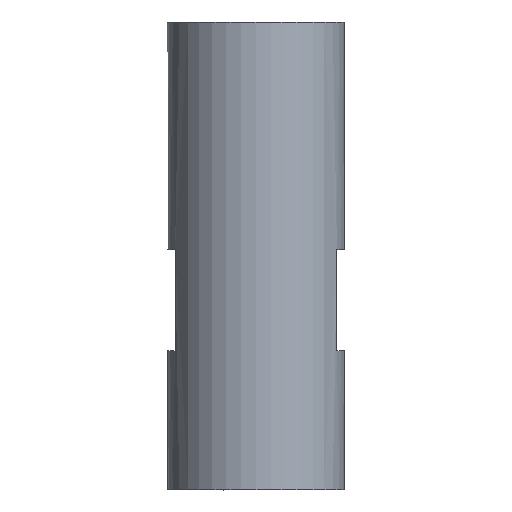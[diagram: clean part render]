
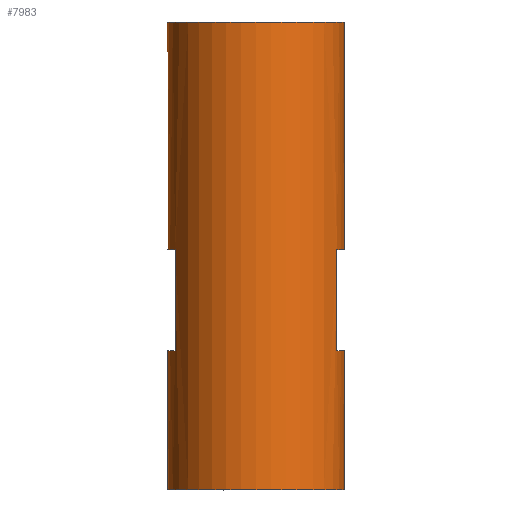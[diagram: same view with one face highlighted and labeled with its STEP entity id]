
A CAD part, front view. The second image highlights one B-rep face of the part: STEP entity #7983.
In plain terms, the highlighted cylindrical face has radius 35 mm (diameter 70 mm), a full revolution.
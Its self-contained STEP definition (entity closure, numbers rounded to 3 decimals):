
#6177=CYLINDRICAL_SURFACE('',#25033,35.);
#6942=B_SPLINE_CURVE_WITH_KNOTS('',3,(#45777,#45778,#45779,#45780,#45781,
#45782,#45783,#45784,#45785,#45786),.UNSPECIFIED.,.F.,.F.,(4,2,2,2,4),(0.,
0.25,0.5,0.75,1.),.UNSPECIFIED.);
#6994=B_SPLINE_CURVE_WITH_KNOTS('',3,(#48666,#48667,#48668,#48669,#48670,
#48671,#48672,#48673,#48674,#48675),.UNSPECIFIED.,.F.,.F.,(4,2,2,2,4),(0.,
0.25,0.5,0.75,1.),.UNSPECIFIED.);
#7983=ADVANCED_FACE('',(#9032,#9033,#9034,#9035,#9036),#6177,.T.);
#9032=FACE_BOUND('',#10267,.T.);
#9033=FACE_BOUND('',#10268,.T.);
#9034=FACE_BOUND('',#10269,.T.);
#9035=FACE_BOUND('',#10270,.T.);
#9036=FACE_BOUND('',#10271,.T.);
#10267=EDGE_LOOP('',(#15671));
#10268=EDGE_LOOP('',(#15672));
#10269=EDGE_LOOP('',(#15673,#15674,#15675,#15676));
#10270=EDGE_LOOP('',(#15677,#15678,#15679,#15680));
#10271=EDGE_LOOP('',(#15681,#15682,#15683,#15684));
#10993=CIRCLE('',#25026,35.);
#10994=CIRCLE('',#25028,35.);
#10995=CIRCLE('',#25029,35.);
#10996=CIRCLE('',#25030,35.);
#10997=CIRCLE('',#25031,35.);
#10998=CIRCLE('',#25032,35.);
#15671=ORIENTED_EDGE('',*,*,#20493,.T.);
#15672=ORIENTED_EDGE('',*,*,#20494,.T.);
#15673=ORIENTED_EDGE('',*,*,#20495,.F.);
#15674=ORIENTED_EDGE('',*,*,#20496,.T.);
#15675=ORIENTED_EDGE('',*,*,#20497,.F.);
#15676=ORIENTED_EDGE('',*,*,#20498,.T.);
#15677=ORIENTED_EDGE('',*,*,#20499,.T.);
#15678=ORIENTED_EDGE('',*,*,#20500,.F.);
#15679=ORIENTED_EDGE('',*,*,#20501,.T.);
#15680=ORIENTED_EDGE('',*,*,#20502,.F.);
#15681=ORIENTED_EDGE('',*,*,#20430,.F.);
#15682=ORIENTED_EDGE('',*,*,#20503,.F.);
#15683=ORIENTED_EDGE('',*,*,#20504,.F.);
#15684=ORIENTED_EDGE('',*,*,#20505,.F.);
#17889=VERTEX_POINT('',#45787);
#17890=VERTEX_POINT('',#45788);
#17932=VERTEX_POINT('',#48644);
#17933=VERTEX_POINT('',#48647);
#17934=VERTEX_POINT('',#48649);
#17935=VERTEX_POINT('',#48650);
#17936=VERTEX_POINT('',#48652);
#17937=VERTEX_POINT('',#48654);
#17938=VERTEX_POINT('',#48657);
#17939=VERTEX_POINT('',#48658);
#17940=VERTEX_POINT('',#48660);
#17941=VERTEX_POINT('',#48662);
#17942=VERTEX_POINT('',#48665);
#17943=VERTEX_POINT('',#48676);
#20430=EDGE_CURVE('',#17889,#17890,#6942,.T.);
#20493=EDGE_CURVE('',#17932,#17932,#10993,.T.);
#20494=EDGE_CURVE('',#17933,#17933,#10994,.T.);
#20495=EDGE_CURVE('',#17934,#17935,#21821,.T.);
#20496=EDGE_CURVE('',#17934,#17936,#10995,.T.);
#20497=EDGE_CURVE('',#17937,#17936,#21822,.T.);
#20498=EDGE_CURVE('',#17937,#17935,#10996,.T.);
#20499=EDGE_CURVE('',#17938,#17939,#10997,.T.);
#20500=EDGE_CURVE('',#17940,#17939,#21823,.T.);
#20501=EDGE_CURVE('',#17940,#17941,#10998,.T.);
#20502=EDGE_CURVE('',#17938,#17941,#21824,.T.);
#20503=EDGE_CURVE('',#17942,#17889,#21825,.T.);
#20504=EDGE_CURVE('',#17943,#17942,#6994,.T.);
#20505=EDGE_CURVE('',#17890,#17943,#21826,.T.);
#21821=LINE('',#48648,#23294);
#21822=LINE('',#48653,#23295);
#21823=LINE('',#48659,#23296);
#21824=LINE('',#48663,#23297);
#21825=LINE('',#48664,#23298);
#21826=LINE('',#48677,#23299);
#23294=VECTOR('',#29164,1.);
#23295=VECTOR('',#29167,1.);
#23296=VECTOR('',#29172,1.);
#23297=VECTOR('',#29175,1.);
#23298=VECTOR('',#29176,1.);
#23299=VECTOR('',#29177,1.);
#25026=AXIS2_PLACEMENT_3D('',#48643,#29158,#29159);
#25028=AXIS2_PLACEMENT_3D('',#48646,#29162,#29163);
#25029=AXIS2_PLACEMENT_3D('',#48651,#29165,#29166);
#25030=AXIS2_PLACEMENT_3D('',#48655,#29168,#29169);
#25031=AXIS2_PLACEMENT_3D('',#48656,#29170,#29171);
#25032=AXIS2_PLACEMENT_3D('',#48661,#29173,#29174);
#25033=AXIS2_PLACEMENT_3D('',#48678,#29178,#29179);
#29158=DIRECTION('',(0.,0.,1.));
#29159=DIRECTION('',(1.,0.,0.));
#29162=DIRECTION('',(0.,0.,-1.));
#29163=DIRECTION('',(1.,0.,0.));
#29164=DIRECTION('',(0.,0.,-1.));
#29165=DIRECTION('',(0.,0.,1.));
#29166=DIRECTION('',(-1.,0.,0.));
#29167=DIRECTION('',(0.,0.,1.));
#29168=DIRECTION('',(0.,0.,-1.));
#29169=DIRECTION('',(-0.914,-0.405,0.));
#29170=DIRECTION('',(0.,0.,1.));
#29171=DIRECTION('',(0.914,-0.405,0.));
#29172=DIRECTION('',(0.,0.,1.));
#29173=DIRECTION('',(0.,0.,-1.));
#29174=DIRECTION('',(1.,0.,0.));
#29175=DIRECTION('',(0.,0.,-1.));
#29176=DIRECTION('',(0.,0.,-1.));
#29177=DIRECTION('',(0.,0.,1.));
#29178=DIRECTION('',(0.,0.,-1.));
#29179=DIRECTION('',(-1.,0.,0.));
#45777=CARTESIAN_POINT('',(14.162,15.5,132.741));
#45778=CARTESIAN_POINT('',(12.555,16.212,130.52));
#45779=CARTESIAN_POINT('',(10.46,16.988,128.718));
#45780=CARTESIAN_POINT('',(5.607,18.135,126.204));
#45781=CARTESIAN_POINT('',(2.816,18.498,125.505));
#45782=CARTESIAN_POINT('',(-2.787,18.502,125.495));
#45783=CARTESIAN_POINT('',(-5.606,18.142,126.191));
#45784=CARTESIAN_POINT('',(-10.485,16.991,128.711));
#45785=CARTESIAN_POINT('',(-12.585,16.212,130.519));
#45786=CARTESIAN_POINT('',(-14.193,15.5,132.741));
#45787=CARTESIAN_POINT('',(14.162,15.5,132.741));
#45788=CARTESIAN_POINT('',(-14.193,15.5,132.741));
#48643=CARTESIAN_POINT('',(-0.016,-16.5,68.));
#48644=CARTESIAN_POINT('',(34.984,-16.5,68.));
#48646=CARTESIAN_POINT('',(-0.016,-16.5,253.));
#48647=CARTESIAN_POINT('',(34.984,-16.5,253.));
#48648=CARTESIAN_POINT('',(-32.016,-2.323,163.));
#48649=CARTESIAN_POINT('',(-32.016,-2.323,163.));
#48650=CARTESIAN_POINT('',(-32.016,-2.323,123.));
#48651=CARTESIAN_POINT('',(-0.016,-16.5,163.));
#48652=CARTESIAN_POINT('',(-32.016,-30.677,163.));
#48653=CARTESIAN_POINT('',(-32.016,-30.677,123.));
#48654=CARTESIAN_POINT('',(-32.016,-30.677,123.));
#48655=CARTESIAN_POINT('',(-0.016,-16.5,123.));
#48656=CARTESIAN_POINT('',(-0.016,-16.5,163.));
#48657=CARTESIAN_POINT('',(31.984,-30.677,163.));
#48658=CARTESIAN_POINT('',(31.984,-2.323,163.));
#48659=CARTESIAN_POINT('',(31.984,-2.323,123.));
#48660=CARTESIAN_POINT('',(31.984,-2.323,123.));
#48661=CARTESIAN_POINT('',(-0.016,-16.5,123.));
#48662=CARTESIAN_POINT('',(31.984,-30.677,123.));
#48663=CARTESIAN_POINT('',(31.984,-30.677,163.));
#48664=CARTESIAN_POINT('',(14.162,15.5,153.259));
#48665=CARTESIAN_POINT('',(14.162,15.5,153.259));
#48666=CARTESIAN_POINT('',(-14.193,15.5,153.259));
#48667=CARTESIAN_POINT('',(-12.586,16.212,155.48));
#48668=CARTESIAN_POINT('',(-10.491,16.988,157.282));
#48669=CARTESIAN_POINT('',(-5.639,18.135,159.796));
#48670=CARTESIAN_POINT('',(-2.848,18.498,160.495));
#48671=CARTESIAN_POINT('',(2.756,18.502,160.505));
#48672=CARTESIAN_POINT('',(5.574,18.142,159.809));
#48673=CARTESIAN_POINT('',(10.454,16.991,157.289));
#48674=CARTESIAN_POINT('',(12.554,16.212,155.481));
#48675=CARTESIAN_POINT('',(14.162,15.5,153.259));
#48676=CARTESIAN_POINT('',(-14.193,15.5,153.259));
#48677=CARTESIAN_POINT('',(-14.193,15.5,132.741));
#48678=CARTESIAN_POINT('',(-0.016,-16.5,262.25));
